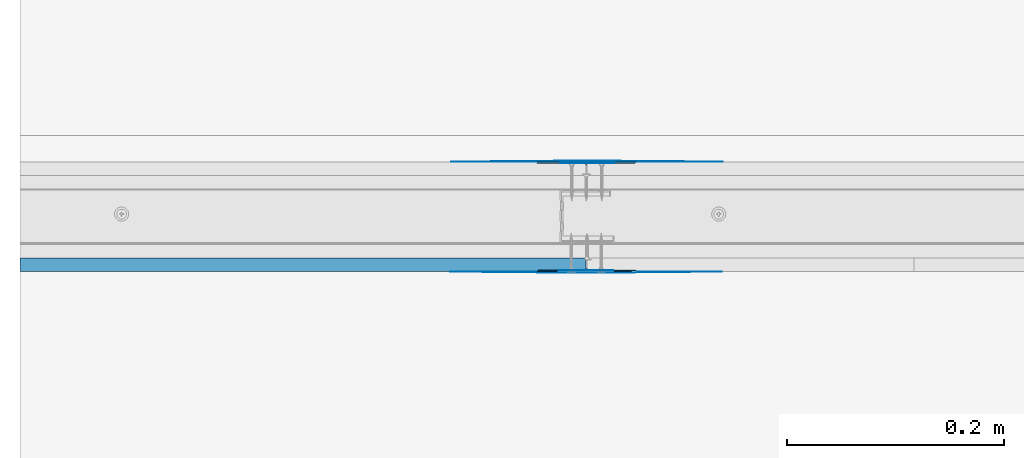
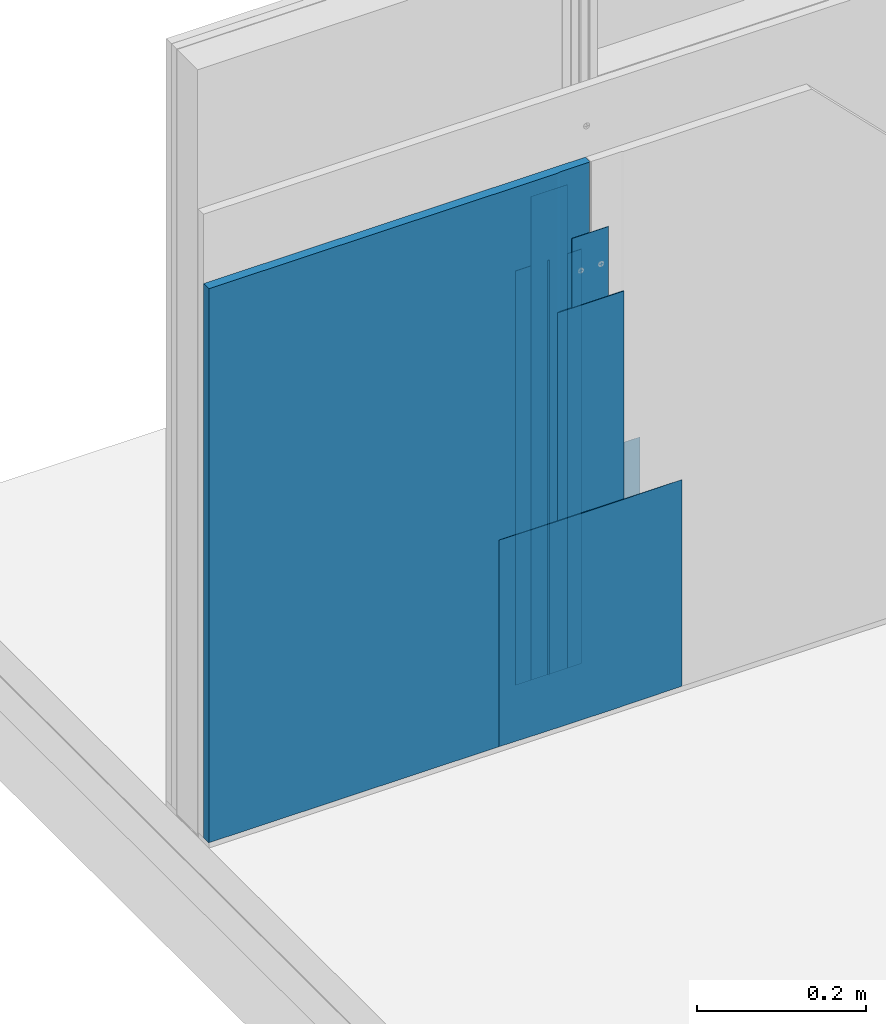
# One storey, part 3 of 36: 7 walls.
"""IFC2X3 building model written with IfcOpenShell, lengths in millimetres."""

from ifc_helpers import new_model, entity, si_unit, converted_unit, direction, frame, origin, origin_with_axes, place, context, project, spatial, faceted_brep, element, save


model = new_model("IFC2X3")

# Units and contexts
model_context = context("Model", 3, precision=1e-05, world=origin(), true_north=direction((0.0, 1.0, 0.0)))
ifc_project = project(units=[si_unit("LENGTHUNIT", "METRE", prefix="MILLI"), si_unit("AREAUNIT", "SQUARE_METRE"), si_unit("VOLUMEUNIT", "CUBIC_METRE"), converted_unit("PLANEANGLEUNIT", "DEGREE", entity("IfcPlaneAngleMeasure", 0.01745), si_unit("PLANEANGLEUNIT", "RADIAN"), dimensions=[0, 0, 0, 0, 0, 0, 0]), si_unit("SOLIDANGLEUNIT", "STERADIAN"), si_unit("MASSUNIT", "GRAM"), si_unit("TIMEUNIT", "SECOND"), si_unit("THERMODYNAMICTEMPERATUREUNIT", "DEGREE_CELSIUS"), si_unit("LUMINOUSINTENSITYUNIT", "LUMEN")], contexts=[model_context])

# Site, building, storey
site_placement = place(None, origin_with_axes())
site = spatial("IfcSite", under=ifc_project, at=site_placement, Name="Default Site", CompositionType="ELEMENT")
building_placement = place(site_placement, origin_with_axes())
building = spatial("IfcBuilding", under=site, at=building_placement, Name="Default Building", CompositionType="ELEMENT")
storey_placement = place(building_placement, origin_with_axes())
storey = spatial("IfcBuildingStorey", under=building, at=storey_placement, Name="Default Building Storey", CompositionType="ELEMENT", Elevation=0.0)

# Walls
wall_1_placement = place(storey_placement, frame((2646.242430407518, 1958.680077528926, 1161.999999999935), z_axis=(0.0, 0.0, 1.0), x_axis=(-1.0, 6.389333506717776e-13, 0.0)))
element("IfcWall", 1, at=wall_1_placement, inside=storey, Name="Płyta gipsowo-kartonowa RIGIPS PRO (4PRO™)", context=model_context, shape_type="Brep", body=[
    faceted_brep([(521.2172969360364, 12.49999999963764, -249.9999999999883), (521.2172969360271, -3.346059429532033e-10, -249.9999999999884), (521.217296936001, -3.313573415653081e-10, -1050.001581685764), (521.2172969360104, 12.49999999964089, -1050.001581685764), (44.99999999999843, 12.50000000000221, -249.9999999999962), (40.99999999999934, 11.50000000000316, -249.9999999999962), (0.9999999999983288, 11.50000000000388, -249.9999999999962), (0.7411809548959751, 11.46592582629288, -249.9999999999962), (0.4999999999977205, 11.3660254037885, -249.9999999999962), (0.29289321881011, 11.20710678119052, -249.9999999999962), (0.1339745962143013, 11.00000000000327, -249.9999999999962), (0.03407417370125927, 10.7588190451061, -249.9999999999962), (-1.443822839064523e-12, 10.50000000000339, -249.9999999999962), (0.0, 0.0, -249.9999999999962), (44.99999999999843, 12.50000000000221, -1050.001581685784), (40.99999999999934, 11.50000000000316, -1050.001581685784), (0.9999999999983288, 11.50000000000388, -1050.001581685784), (0.7411809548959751, 11.46592582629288, -1050.001581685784), (0.4999999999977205, 11.3660254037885, -1050.001581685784), (0.29289321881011, 11.20710678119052, -1050.001581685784), (0.1339745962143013, 11.00000000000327, -1050.001581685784), (0.03407417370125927, 10.7588190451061, -1050.001581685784), (-1.443822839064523e-12, 10.50000000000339, -1050.001581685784), (0.0, 0.0, -1050.001581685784)], [[[0, 1, 2, 3]], [[0, 4, 5, 6, 7, 8, 9, 10, 11, 12, 13, 1]], [[3, 14, 4, 0]], [[5, 4, 14, 15]], [[6, 5, 15, 16]], [[7, 6, 16, 17]], [[8, 7, 17, 18]], [[9, 8, 18, 19]], [[10, 9, 19, 20]], [[11, 10, 20, 21]], [[12, 11, 21, 22]], [[13, 12, 22, 23]], [[2, 1, 13, 23]], [[14, 3, 2, 23, 22, 21, 20, 19, 18, 17, 16, 15]]]),
])
wall_2_placement = place(storey_placement, frame((3383.701646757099, 5336.736799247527, 109.5484213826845), z_axis=(0.0, 0.0, 1.0), x_axis=(1.0, 0.0, 0.0)))
element("IfcWall", 2, at=wall_2_placement, inside=storey, Name="Taśma spoinowa RIGIPS", context=model_context, shape_type="Brep", body=[
    faceted_brep([(-712.4592163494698, -3389.356721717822, 700.7999999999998), (-712.4592163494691, -3389.856721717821, 700.7999999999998), (-762.4592163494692, -3389.856721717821, 700.7999999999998), (-762.45921634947, -3389.35672171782, 700.7999999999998), (-712.4592163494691, -3389.856721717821, 2.449996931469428), (-712.4592163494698, -3389.35672171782, 2.449996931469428), (-762.45921634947, -3389.35672171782, 2.449996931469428), (-762.4592163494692, -3389.856721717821, 2.449996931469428)], [[[0, 1, 2, 3]], [[4, 5, 6, 7]], [[5, 0, 3, 6]], [[6, 3, 2, 7]], [[7, 2, 1, 4]], [[4, 1, 0, 5]]]),
])
wall_3_placement = place(storey_placement, frame((1909.78321405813, 5336.736799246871, 109.5484213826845), z_axis=(0.0, 0.0, 1.0), x_axis=(-1.0, 0.0, 0.0)))
element("IfcWall", 3, at=wall_3_placement, inside=storey, Name="Dedykowana masa szpachlowa Rigips - konstrukcyjna", context=model_context, shape_type="Brep", body=[
    faceted_brep([(-737.4838396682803, 3387.6695906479, 600.7999999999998), (-737.4592163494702, 3387.356721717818, 600.7999999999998), (-737.434593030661, 3387.6695906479, 600.7999999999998), (-737.3613293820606, 3387.974755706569, 600.7999999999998), (-737.2412293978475, 3388.264702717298, 600.7999999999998), (-737.07725033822, 3388.532292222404, 600.7999999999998), (-736.8734299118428, 3388.770935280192, 600.7999999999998), (-736.6347868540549, 3388.974755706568, 600.7999999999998), (-736.3671973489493, 3389.138734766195, 600.7999999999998), (-736.0772503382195, 3389.258834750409, 600.7999999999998), (-735.7720852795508, 3389.332098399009, 600.7999999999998), (-735.45921634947, 3389.356721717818, 600.7999999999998), (-692.4592163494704, 3389.356721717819, 600.7999999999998), (-691.4592163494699, 3390.556721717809, 600.7999999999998), (-782.4592163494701, 3390.556721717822, 600.7999999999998), (-782.4592163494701, 3389.356721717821, 600.7999999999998), (-739.4592163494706, 3389.356721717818, 600.7999999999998), (-739.1463474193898, 3389.332098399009, 600.7999999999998), (-738.8411823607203, 3389.258834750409, 600.7999999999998), (-738.5512353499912, 3389.138734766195, 600.7999999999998), (-738.2836458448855, 3388.974755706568, 600.7999999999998), (-738.0450027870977, 3388.770935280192, 600.7999999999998), (-737.8411823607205, 3388.532292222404, 600.7999999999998), (-737.6772033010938, 3388.264702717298, 600.7999999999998), (-737.55710331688, 3387.974755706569, 600.7999999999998), (-691.4592163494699, 3390.556721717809, 2.449996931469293), (-692.4592163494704, 3389.356721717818, 2.449996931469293), (-735.45921634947, 3389.356721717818, 2.449996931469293), (-735.7720852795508, 3389.332098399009, 2.449996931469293), (-736.0772503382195, 3389.258834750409, 2.449996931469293), (-736.3671973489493, 3389.138734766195, 2.449996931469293), (-736.6347868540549, 3388.974755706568, 2.449996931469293), (-736.8734299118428, 3388.770935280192, 2.449996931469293), (-737.07725033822, 3388.532292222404, 2.449996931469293), (-737.2412293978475, 3388.264702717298, 2.449996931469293), (-737.3613293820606, 3387.974755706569, 2.449996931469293), (-737.434593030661, 3387.6695906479, 2.449996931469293), (-737.4592163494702, 3387.356721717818, 2.449996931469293), (-737.4838396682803, 3387.6695906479, 2.449996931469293), (-737.55710331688, 3387.974755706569, 2.449996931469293), (-737.6772033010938, 3388.264702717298, 2.449996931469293), (-737.8411823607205, 3388.532292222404, 2.449996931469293), (-738.0450027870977, 3388.770935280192, 2.449996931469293), (-738.2836458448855, 3388.974755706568, 2.449996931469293), (-738.5512353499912, 3389.138734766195, 2.449996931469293), (-738.8411823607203, 3389.258834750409, 2.449996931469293), (-739.1463474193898, 3389.332098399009, 2.449996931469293), (-739.4592163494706, 3389.356721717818, 2.449996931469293), (-782.4592163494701, 3389.356721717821, 2.449996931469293), (-782.4592163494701, 3390.556721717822, 2.449996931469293)], [[[0, 1, 2, 3, 4, 5, 6, 7, 8, 9, 10, 11, 12, 13, 14, 15, 16, 17, 18, 19, 20, 21, 22, 23, 24]], [[25, 26, 27, 28, 29, 30, 31, 32, 33, 34, 35, 36, 37, 38, 39, 40, 41, 42, 43, 44, 45, 46, 47, 48, 49]], [[26, 12, 11, 27]], [[10, 9, 29, 28]], [[28, 27, 11, 10]], [[8, 30, 29, 9]], [[7, 6, 32, 31]], [[31, 30, 8, 7]], [[5, 4, 34, 33]], [[33, 32, 6, 5]], [[3, 35, 34, 4]], [[2, 1, 37, 36]], [[36, 35, 3, 2]], [[0, 24, 39, 38]], [[38, 37, 1, 0]], [[23, 40, 39, 24]], [[22, 21, 42, 41]], [[41, 40, 23, 22]], [[20, 19, 44, 43]], [[43, 42, 21, 20]], [[18, 45, 44, 19]], [[17, 16, 47, 46]], [[46, 45, 18, 17]], [[47, 16, 15, 48]], [[48, 15, 14, 49]], [[49, 14, 13, 25]], [[25, 13, 12, 26]]]),
])
for number, where, z_axis, x_axis, name in (
    (4, (1909.970432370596, -1343.415798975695, 109.5484213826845), (0.0, 0.0, 1.0), (-1.0, -8.049116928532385e-16, 0.0), "Dedykowana masa szpachlowa Rigips - wykończeniowa"),
    (5, (3383.701646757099, 5336.736799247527, 109.5484213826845), (0.0, 0.0, 1.0), (1.0, 0.0, 0.0), "Dedykowana masa szpachlowa Rigips - wykończeniowa"),
):
    element("IfcWall", number, at=place(storey_placement, frame(where, z_axis=z_axis, x_axis=x_axis)), inside=storey, Name=name, context=model_context, shape_type="Brep", body=[
        faceted_brep([(-612.459216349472, -3390.556721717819, 2.449996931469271), (-862.459216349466, -3390.556721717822, 2.449996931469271), (-812.4612643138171, -3391.196716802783, 2.449996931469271), (-762.4602403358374, -3391.516720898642, 2.449996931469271), (-712.458192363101, -3391.516720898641, 2.449996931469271), (-662.4571683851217, -3391.19671680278, 2.449996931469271), (-762.4602403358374, -3391.516720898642, 300.8000000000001), (-812.4612643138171, -3391.196716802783, 300.8000000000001), (-862.459216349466, -3390.556721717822, 300.8000000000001), (-612.459216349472, -3390.556721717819, 300.8000000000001), (-662.4571683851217, -3391.19671680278, 300.8000000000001), (-712.458192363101, -3391.516720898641, 300.8000000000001)], [[[0, 1, 2, 3, 4, 5]], [[6, 7, 8, 9, 10, 11]], [[9, 0, 5, 10]], [[10, 5, 4, 11]], [[11, 4, 3, 6]], [[6, 3, 2, 7]], [[1, 8, 7, 2]], [[0, 9, 8, 1]]]),
    ])
wall_4_placement = place(storey_placement, frame((3383.888865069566, -1343.415798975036, 109.5484213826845), z_axis=(0.0, 0.0, 1.0), x_axis=(1.0, 0.0, 0.0)))
element("IfcWall", 6, at=wall_4_placement, inside=storey, Name="Dedykowana masa szpachlowa Rigips - konstrukcyjna", context=model_context, shape_type="Brep", body=[
    faceted_brep([(-737.4838396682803, 3387.6695906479, 600.7999999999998), (-737.4592163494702, 3387.356721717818, 600.7999999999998), (-737.434593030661, 3387.6695906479, 600.7999999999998), (-737.3613293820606, 3387.974755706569, 600.7999999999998), (-737.2412293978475, 3388.264702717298, 600.7999999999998), (-737.07725033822, 3388.532292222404, 600.7999999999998), (-736.8734299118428, 3388.770935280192, 600.7999999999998), (-736.6347868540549, 3388.974755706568, 600.7999999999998), (-736.3671973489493, 3389.138734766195, 600.7999999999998), (-736.0772503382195, 3389.258834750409, 600.7999999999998), (-735.7720852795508, 3389.332098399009, 600.7999999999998), (-735.45921634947, 3389.356721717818, 600.7999999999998), (-692.4592163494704, 3389.356721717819, 600.7999999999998), (-691.4592163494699, 3390.556721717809, 600.7999999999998), (-782.4592163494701, 3390.556721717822, 600.7999999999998), (-782.4592163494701, 3389.356721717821, 600.7999999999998), (-739.4592163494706, 3389.356721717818, 600.7999999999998), (-739.1463474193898, 3389.332098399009, 600.7999999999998), (-738.8411823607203, 3389.258834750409, 600.7999999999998), (-738.5512353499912, 3389.138734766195, 600.7999999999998), (-738.2836458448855, 3388.974755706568, 600.7999999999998), (-738.0450027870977, 3388.770935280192, 600.7999999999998), (-737.8411823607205, 3388.532292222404, 600.7999999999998), (-737.6772033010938, 3388.264702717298, 600.7999999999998), (-737.55710331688, 3387.974755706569, 600.7999999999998), (-691.4592163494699, 3390.556721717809, 2.449996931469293), (-692.4592163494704, 3389.356721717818, 2.449996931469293), (-735.45921634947, 3389.356721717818, 2.449996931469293), (-735.7720852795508, 3389.332098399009, 2.449996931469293), (-736.0772503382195, 3389.258834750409, 2.449996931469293), (-736.3671973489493, 3389.138734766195, 2.449996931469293), (-736.6347868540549, 3388.974755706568, 2.449996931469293), (-736.8734299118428, 3388.770935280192, 2.449996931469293), (-737.07725033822, 3388.532292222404, 2.449996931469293), (-737.2412293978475, 3388.264702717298, 2.449996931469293), (-737.3613293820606, 3387.974755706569, 2.449996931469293), (-737.434593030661, 3387.6695906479, 2.449996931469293), (-737.4592163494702, 3387.356721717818, 2.449996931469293), (-737.4838396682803, 3387.6695906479, 2.449996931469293), (-737.55710331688, 3387.974755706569, 2.449996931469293), (-737.6772033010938, 3388.264702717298, 2.449996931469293), (-737.8411823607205, 3388.532292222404, 2.449996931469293), (-738.0450027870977, 3388.770935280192, 2.449996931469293), (-738.2836458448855, 3388.974755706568, 2.449996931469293), (-738.5512353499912, 3389.138734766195, 2.449996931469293), (-738.8411823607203, 3389.258834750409, 2.449996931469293), (-739.1463474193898, 3389.332098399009, 2.449996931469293), (-739.4592163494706, 3389.356721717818, 2.449996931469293), (-782.4592163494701, 3389.356721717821, 2.449996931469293), (-782.4592163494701, 3390.556721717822, 2.449996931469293)], [[[0, 1, 2, 3, 4, 5, 6, 7, 8, 9, 10, 11, 12, 13, 14, 15, 16, 17, 18, 19, 20, 21, 22, 23, 24]], [[25, 26, 27, 28, 29, 30, 31, 32, 33, 34, 35, 36, 37, 38, 39, 40, 41, 42, 43, 44, 45, 46, 47, 48, 49]], [[26, 12, 11, 27]], [[10, 9, 29, 28]], [[28, 27, 11, 10]], [[8, 30, 29, 9]], [[7, 6, 32, 31]], [[31, 30, 8, 7]], [[5, 4, 34, 33]], [[33, 32, 6, 5]], [[3, 35, 34, 4]], [[2, 1, 37, 36]], [[36, 35, 3, 2]], [[0, 24, 39, 38]], [[38, 37, 1, 0]], [[23, 40, 39, 24]], [[22, 21, 42, 41]], [[41, 40, 23, 22]], [[20, 19, 44, 43]], [[43, 42, 21, 20]], [[18, 45, 44, 19]], [[17, 16, 47, 46]], [[46, 45, 18, 17]], [[47, 16, 15, 48]], [[48, 15, 14, 49]], [[49, 14, 13, 25]], [[25, 13, 12, 26]]]),
])
wall_5_placement = place(storey_placement, frame((1909.970432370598, -1343.415798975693, 109.5484213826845), z_axis=(0.0, 0.0, 1.0), x_axis=(-1.0, -8.049116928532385e-16, 0.0)))
element("IfcWall", 7, at=wall_5_placement, inside=storey, Name="Taśma spoinowa RIGIPS", context=model_context, shape_type="Brep", body=[
    faceted_brep([(-712.4592163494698, -3389.356721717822, 700.7999999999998), (-712.4592163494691, -3389.856721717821, 700.7999999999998), (-762.4592163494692, -3389.856721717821, 700.7999999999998), (-762.45921634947, -3389.35672171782, 700.7999999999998), (-712.4592163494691, -3389.856721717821, 2.449996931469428), (-712.4592163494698, -3389.35672171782, 2.449996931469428), (-762.45921634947, -3389.35672171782, 2.449996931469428), (-762.4592163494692, -3389.856721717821, 2.449996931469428)], [[[0, 1, 2, 3]], [[4, 5, 6, 7]], [[5, 0, 3, 6]], [[6, 3, 2, 7]], [[7, 2, 1, 4]], [[4, 1, 0, 5]]]),
])

save(model, "model.ifc")
